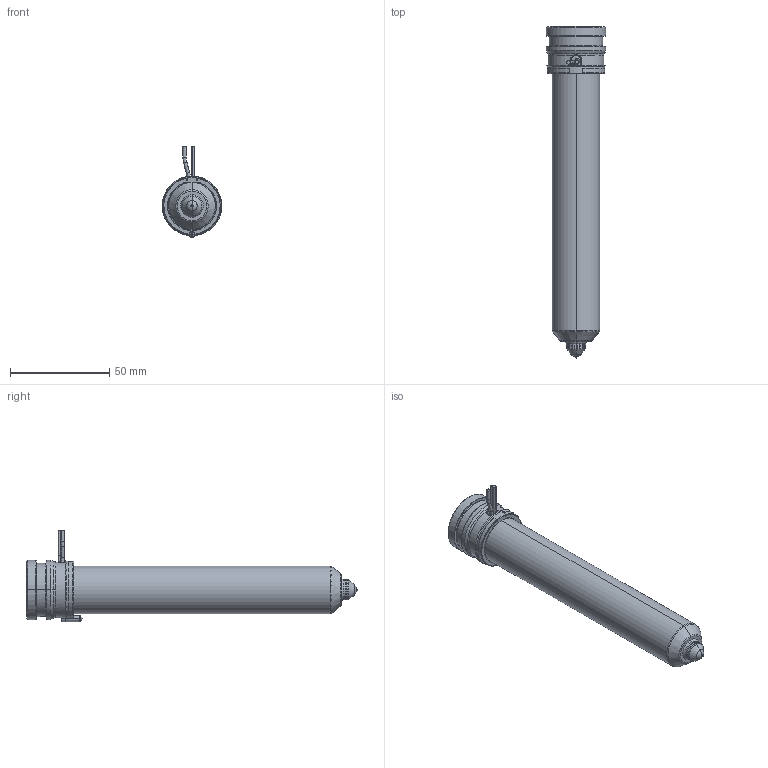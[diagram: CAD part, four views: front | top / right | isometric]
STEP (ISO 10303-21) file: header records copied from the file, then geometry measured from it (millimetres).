
FILE_DESCRIPTION((''),'2;1');
FILE_NAME('MPN-10-29-VX10-146-A','2026-02-05T12:41:14',('UPTIO'),('Thermoplay S.p.A.'),'CREO PARAMETRIC BY PTC INC, 2023494','CREO PARAMETRIC BY PTC INC, 2023494','');
FILE_SCHEMA(('CONFIG_CONTROL_DESIGN','SHAPE_APPEARANCE_LAYERS_GROUPS'));
Length unit declared in the file: millimetre
Products named in the file (1): MPN-10-29-VX10-146-A
Bounding box: 30 x 167.5 x 46 mm (x, y, z)
Volume: 51843.7 mm3; surface area: 52459.6 mm2
Topology: 2 solids, 3 shells, 557 faces, 1459 edges, 901 vertices
Faces by surface type: cylinder 182, plane 144, bspline 76, torus 72, cone 70, sphere 9, extrusion 4
Entity records: 30728 total; most frequent: CARTESIAN_POINT 14221, ORIENTED_EDGE 2906, DIRECTION 2711, EDGE_CURVE 1453, AXIS2_PLACEMENT_3D 1078, VERTEX_POINT 901, CIRCLE 600, EDGE_LOOP 586
